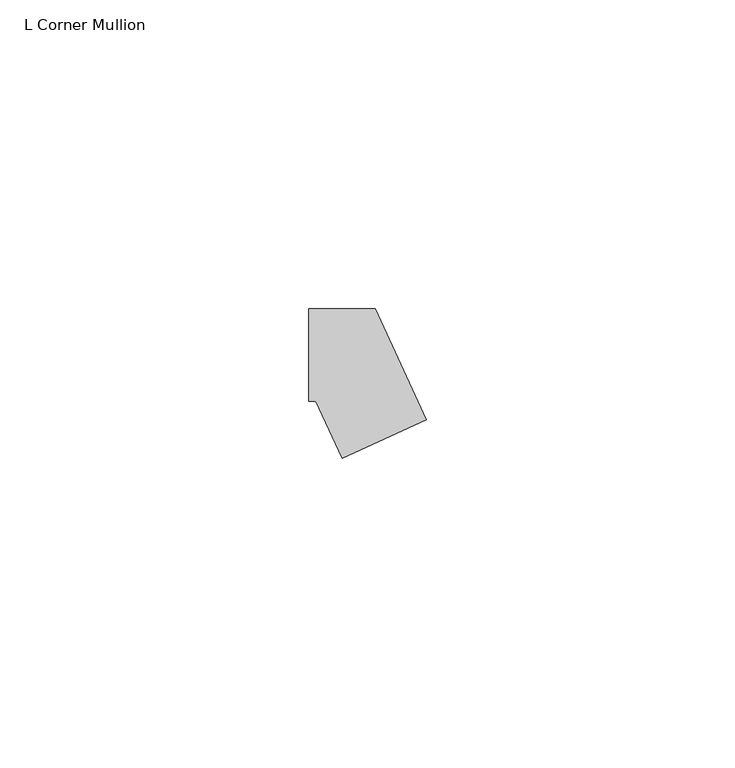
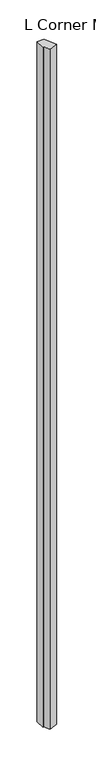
"""IFC4 building model written with IfcOpenShell, lengths in millimetres: member geometry, L Corner Mullion : ARQ_HERR_15X6mm."""

from ifc_helpers import new_model, si_unit, frame, origin, place, context, project, spatial, polyline, outline, extrude, source, transform, mapped, element, save


def l_corner_mullion_fa812596(model_context):
    return source(origin(), model_context, "Body", "SweptSolid", [
        extrude(outline(polyline([(-0.5775282, -16.7605627), (-4.8156946, -7.5), (-6.0, -7.5), (-6.0, 7.5), (4.8156946, 7.5), (13.0619332, -10.5183601), (-0.5775282, -16.7605627)])), frame((0.0, 0.0, -1108.5219325), z_axis=(0.0, 0.0, 1.0), x_axis=(1.0, 0.0, 0.0)), (0.0, 0.0, 1.0), 1108.5219325),
    ])


if __name__ == "__main__":
    model = new_model("IFC4")
    model_context = context("Model", 3, world=origin())
    ifc_project = project(units=[si_unit("LENGTHUNIT", "METRE", prefix="MILLI")], contexts=[model_context])
    site = spatial("IfcSite", under=ifc_project)
    building = spatial("IfcBuilding", under=site)
    placement = place(None, origin())
    l_corner_mullion_shape = l_corner_mullion_fa812596(model_context)
    element("IfcMember", 1, ObjectType="L Corner Mullion : ARQ_HERR_15X6mm", at=placement, inside=building, context=model_context, shape_type="MappedRepresentation", body=[
        mapped(l_corner_mullion_shape, transform((0.0, 0.0, 0.0), x_axis=(1.0, 0.0, 0.0), y_axis=(0.0, 1.0, 0.0), z_axis=(0.0, 0.0, 1.0))),
    ])
    save(model, "model.ifc")
